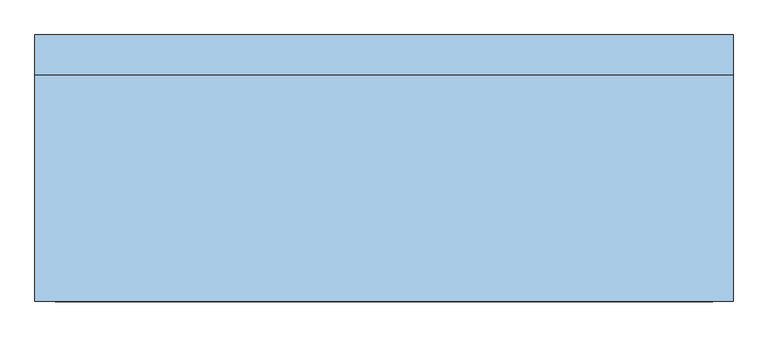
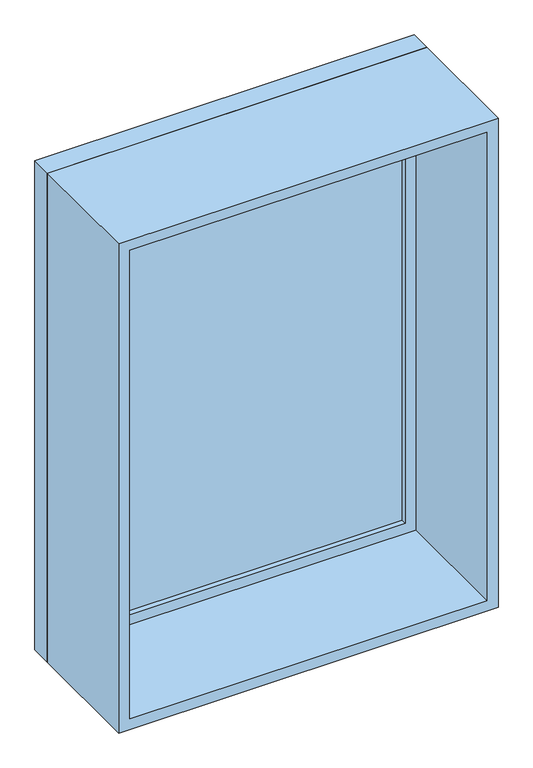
"""IFC4 building model written with IfcOpenShell, lengths in millimetres: window geometry, M_Неподвижный : 15х11."""

import ifcopenshell
import ifcopenshell.guid

model = None  # the IFC model being written
_history = None  # IfcOwnerHistory: only IFC2X3 demands one
_inside = {}  # id of a spatial element -> (the spatial element, [elements in it])
_under = {}  # id of a project, library or spatial element -> (it, [spatial elements below it])
_declared = {}  # id of a project -> (the project, [libraries it declares])
_typed = {}  # id of a type object -> (the type object, [elements of that type])
_made_of = {}  # id of a material, layer set ... -> (it, [elements and type objects made of it])


def new_model(schema):
    """Start an empty IFC model of exactly this schema.

    Asked for "IFC4X3", IfcOpenShell would pick the latest addendum, in which some entities
    have other attributes; the version numbers below select the first issue.
    IFC2X3 requires an IfcOwnerHistory on every rooted entity: one is made here for all.
    """
    global model, _history
    if schema == "IFC4X3":
        model = ifcopenshell.file(schema_version=(4, 3, 0, 0))
    else:
        model = ifcopenshell.file(schema=schema)
    _inside.clear()
    _under.clear()
    _declared.clear()
    _typed.clear()
    _made_of.clear()
    _history = None
    if model.schema == "IFC2X3":
        org = make("IfcOrganization", Name="unknown")
        user = make(
            "IfcPersonAndOrganization",
            ThePerson=make("IfcPerson", FamilyName="unknown"),
            TheOrganization=org,
        )
        app = make(
            "IfcApplication",
            ApplicationDeveloper=org,
            Version="unknown",
            ApplicationFullName="unknown",
            ApplicationIdentifier="unknown",
        )
        _history = make(
            "IfcOwnerHistory",
            OwningUser=user,
            OwningApplication=app,
            ChangeAction="ADDED",
            CreationDate=0,
        )
    return model


def make(cls, **values):
    """One entity of the class cls with the attributes given. An attribute that is None is left unset."""
    return model.create_entity(
        cls, **{name: value for name, value in values.items() if value is not None}
    )


def rooted(cls, **values):
    """An entity with a GlobalId (a new one), such as an element, a storey or a relation."""
    return make(cls, GlobalId=ifcopenshell.guid.new(), OwnerHistory=_history, **values)


def si_unit(unit_type, name, prefix=None):
    """IfcSIUnit, for example si_unit("LENGTHUNIT", "METRE", prefix="MILLI")."""
    return make("IfcSIUnit", UnitType=unit_type, Prefix=prefix, Name=name)


def assignment(units):
    """IfcUnitAssignment: the units of a project."""
    return None if units is None else make("IfcUnitAssignment", Units=units)


def point(xyz):
    """IfcCartesianPoint."""
    return None if xyz is None else make("IfcCartesianPoint", Coordinates=xyz)


def direction(xyz):
    """IfcDirection."""
    return None if xyz is None else make("IfcDirection", DirectionRatios=xyz)


def frame(location, z_axis=None, x_axis=None):
    """IfcAxis2Placement3D, a coordinate frame: its origin and axes. An axis left out is left unset."""
    return make(
        "IfcAxis2Placement3D",
        Location=point(location),
        Axis=direction(z_axis),
        RefDirection=direction(x_axis),
    )


def origin():
    """The frame at (0, 0, 0) with its axes left unset."""
    return frame((0.0, 0.0, 0.0))


def place(relative_to, where):
    """IfcLocalPlacement: puts the frame where relative to a parent placement (None: the world)."""
    return make(
        "IfcLocalPlacement", PlacementRelTo=relative_to, RelativePlacement=where
    )


def context(
    kind, dimensions, precision=None, world=None, true_north=None, identifier=None
):
    """IfcGeometricRepresentationContext, for example the 3D "Model" context."""
    return make(
        "IfcGeometricRepresentationContext",
        ContextIdentifier=identifier,
        ContextType=kind,
        CoordinateSpaceDimension=dimensions,
        Precision=precision,
        WorldCoordinateSystem=world,
        TrueNorth=true_north,
    )


def project(units=None, contexts=None):
    """IfcProject with its units and contexts."""
    return rooted(
        "IfcProject",
        Name="project",
        RepresentationContexts=contexts,
        UnitsInContext=assignment(units),
    )


def spatial(cls, under=None, at=None, **own):
    """A site, building, storey or space (cls), placed at a placement, below another one or the project."""
    s = rooted(cls, ObjectPlacement=at, **own)
    if under is not None:
        _under.setdefault(under.id(), (under, []))[1].append(s)
    return s


def polyline(points):
    """IfcPolyline through the points."""
    return make("IfcPolyline", Points=[point(p) for p in points])


def outline(outer, holes=None, kind="AREA"):
    """IfcArbitraryClosedProfileDef: a profile drawn as a closed curve; with holes, ...WithVoids."""
    if holes is None:
        return make("IfcArbitraryClosedProfileDef", ProfileType=kind, OuterCurve=outer)
    return make(
        "IfcArbitraryProfileDefWithVoids",
        ProfileType=kind,
        OuterCurve=outer,
        InnerCurves=holes,
    )


def extrude(swept, where, along, depth):
    """IfcExtrudedAreaSolid: the profile swept, set in the frame where, extruded along a direction by depth."""
    return make(
        "IfcExtrudedAreaSolid",
        SweptArea=swept,
        Position=where,
        ExtrudedDirection=direction(along),
        Depth=depth,
    )


def shape(context_of_items, identifier, shape_type, items):
    """IfcShapeRepresentation: the items that make up one representation, for example the "Body"."""
    return make(
        "IfcShapeRepresentation",
        ContextOfItems=context_of_items,
        RepresentationIdentifier=identifier,
        RepresentationType=shape_type,
        Items=items,
    )


def source(mapping_origin, context_of_items, identifier, shape_type, items):
    """IfcRepresentationMap: a shape defined once, which mapped items show again and again."""
    return make(
        "IfcRepresentationMap",
        MappingOrigin=mapping_origin,
        MappedRepresentation=shape(context_of_items, identifier, shape_type, items),
    )


def transform(
    local_origin,
    x_axis=None,
    y_axis=None,
    z_axis=None,
    scale=None,
    scale2=None,
    scale3=None,
    uniform=True,
):
    """IfcCartesianTransformationOperator3D, or its non-uniform kind. x_axis, y_axis, z_axis: its Axis1, 2, 3."""
    if uniform:
        return make(
            "IfcCartesianTransformationOperator3D",
            Axis1=direction(x_axis),
            Axis2=direction(y_axis),
            LocalOrigin=point(local_origin),
            Scale=scale,
            Axis3=direction(z_axis),
        )
    return make(
        "IfcCartesianTransformationOperator3DnonUniform",
        Axis1=direction(x_axis),
        Axis2=direction(y_axis),
        LocalOrigin=point(local_origin),
        Scale=scale,
        Axis3=direction(z_axis),
        Scale2=scale2,
        Scale3=scale3,
    )


def mapped(mapping_source, mapping_target):
    """IfcMappedItem: shows the shape of a source again, moved by a transform."""
    return make(
        "IfcMappedItem", MappingSource=mapping_source, MappingTarget=mapping_target
    )


def made_of(thing, what):
    """Note that an element or type object is made of a material, layer set ...; save() writes the relation."""
    if what is not None:
        _made_of.setdefault(what.id(), (what, []))[1].append(thing)
    return thing


def element(
    cls,
    number,
    at=None,
    inside=None,
    cuts=None,
    type_object=None,
    material=None,
    context=None,
    identifier="Body",
    shape_type=None,
    held_by="IfcProductDefinitionShape",
    body=None,
    shapes=None,
    **own,
):
    """One element of the class cls, such as IfcWall. Its Tag is "e" and its number.

    at: its placement. inside: the storey or other place that contains it. cuts: it is an
    opening in that element (IfcRelVoidsElement). A single representation is given by context,
    identifier, shape_type and body (its items); several are given by shapes. held_by: the class
    of the entity that holds the representations. save() writes the other relations.
    """
    e = rooted(cls, Tag="e%d" % number, ObjectPlacement=at, **own)
    if body is not None:
        shapes = [shape(context, identifier, shape_type, body)]
    if shapes is not None:
        e.Representation = make(held_by, Representations=shapes)
    if inside is not None:
        _inside.setdefault(inside.id(), (inside, []))[1].append(e)
    if cuts is not None:
        rooted(
            "IfcRelVoidsElement", RelatingBuildingElement=cuts, RelatedOpeningElement=e
        )
    if type_object is not None:
        _typed.setdefault(type_object.id(), (type_object, []))[1].append(e)
    return made_of(e, material)


def aggregate(whole, parts):
    """IfcRelAggregates: a whole, such as a stair, and the parts it consists of."""
    return rooted("IfcRelAggregates", RelatingObject=whole, RelatedObjects=parts)


def save(model, path):
    """Write the relations noted so far, then the file.

    IfcRelAggregates (storeys below a building ...), IfcRelContainedInSpatialStructure (elements
    in a storey), IfcRelDefinesByType, IfcRelAssociatesMaterial and IfcRelDeclares: one each for
    every whole, place, type object, material and project.
    """
    for whole, parts in _under.values():
        aggregate(whole, parts)
    for where, things in _inside.values():
        rooted(
            "IfcRelContainedInSpatialStructure",
            RelatedElements=things,
            RelatingStructure=where,
        )
    for kind, things in _typed.values():
        rooted("IfcRelDefinesByType", RelatedObjects=things, RelatingType=kind)
    for what, things in _made_of.values():
        rooted("IfcRelAssociatesMaterial", RelatedObjects=things, RelatingMaterial=what)
    for by, libraries in _declared.values():
        rooted("IfcRelDeclares", RelatingContext=by, RelatedDefinitions=libraries)
    model.write(path)


def window_9afe4554(model_context):
    return source(origin(), model_context, "Body", "SweptSolid", [
        extrude(outline(polyline([(2415.0, -550.0), (915.0, -550.0), (915.0, 550.0), (2415.0, 550.0), (2415.0, -550.0)]), holes=[polyline([(2396.0, -531.0), (2396.0, 531.0), (934.0, 531.0), (934.0, -531.0), (2396.0, -531.0)])]), frame((0.0, 160.0, 0.0), z_axis=(0.0, 1.0, 0.0), x_axis=(0.0, 0.0, 1.0)), (0.0, 0.0, 1.0), 63.0),
        extrude(outline(polyline([(2415.0, -550.0), (915.0, -550.0), (915.0, 550.0), (2415.0, 550.0), (2415.0, -550.0)]), holes=[polyline([(2383.0, -518.0), (2383.0, 518.0), (947.0, 518.0), (947.0, -518.0), (2383.0, -518.0)])]), frame((0.0, -197.0, 0.0), z_axis=(0.0, 1.0, 0.0), x_axis=(0.0, 0.0, 1.0)), (0.0, 0.0, 1.0), 357.0),
        extrude(outline(polyline([(-487.0, 188.0), (487.0, 188.0), (487.0, 176.0), (-487.0, 176.0), (-487.0, 188.0)])), frame((0.0, 0.0, 978.0), z_axis=(0.0, 0.0, 1.0), x_axis=(1.0, 0.0, 0.0)), (0.0, 0.0, 1.0), 1374.0),
        extrude(outline(polyline([(2396.0, -531.0), (934.0, -531.0), (934.0, 531.0), (2396.0, 531.0), (2396.0, -531.0)]), holes=[polyline([(2352.0, -487.0), (2352.0, 487.0), (978.0, 487.0), (978.0, -487.0), (2352.0, -487.0)])]), frame((0.0, 160.0, 0.0), z_axis=(0.0, 1.0, 0.0), x_axis=(0.0, 0.0, 1.0)), (0.0, 0.0, 1.0), 44.0),
    ])


if __name__ == "__main__":
    model = new_model("IFC4")
    model_context = context("Model", 3, world=origin())
    ifc_project = project(units=[si_unit("LENGTHUNIT", "METRE", prefix="MILLI")], contexts=[model_context])
    site = spatial("IfcSite", under=ifc_project)
    building = spatial("IfcBuilding", under=site)
    placement = place(None, origin())
    window_shape = window_9afe4554(model_context)
    element("IfcWindow", 1, ObjectType="M_Неподвижный : 15х11", at=placement, inside=building, context=model_context, shape_type="MappedRepresentation", body=[
        mapped(window_shape, transform((0.0, 0.0, 0.0), x_axis=(1.0, 0.0, 0.0), y_axis=(0.0, 1.0, 0.0), z_axis=(0.0, 0.0, 1.0))),
    ])
    save(model, "model.ifc")
